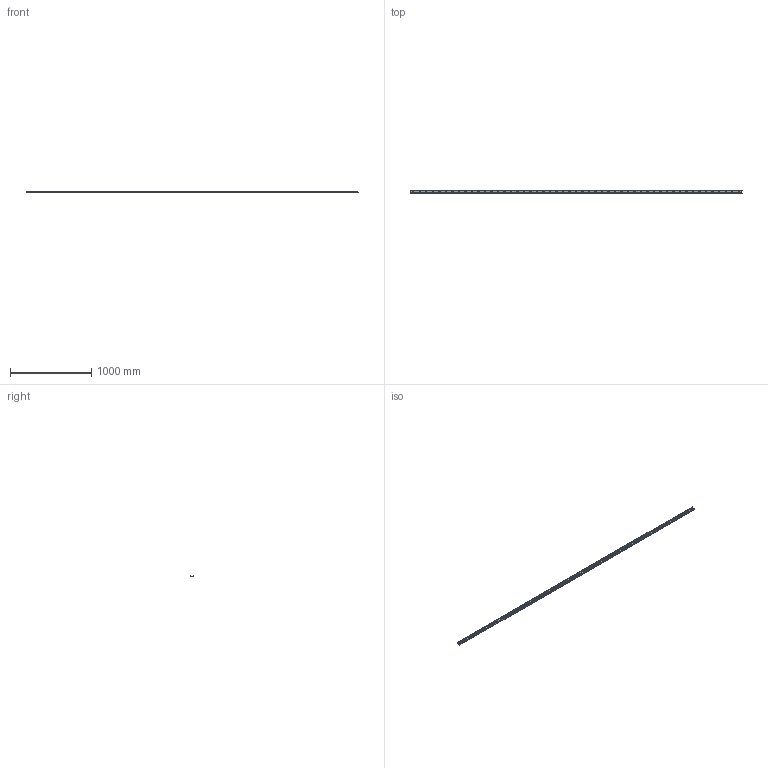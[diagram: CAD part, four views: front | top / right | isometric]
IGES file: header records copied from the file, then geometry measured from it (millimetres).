
Start section: SolidWorks IGES file using analytic representation for surfaces
Global section: file name: C:\Users\IanO\Desktop\43\L1943.ULC43_v2_20180121_IGES\L1943.ULC43-4080.igs; native system: SolidWorks 2017; preprocessor: SolidWorks 2017; author: IanO; date: 190121.085513; units: millimetre
Bounding box: 4080 x 43 x 21 mm (x, y, z)
Surface area: 639589.8 mm2 (no closed solid volume)
Topology: 0 solids, 0 shells, 281 faces, 7638 edges, 7638 vertices
Faces by surface type: revolution 217, bspline 64
